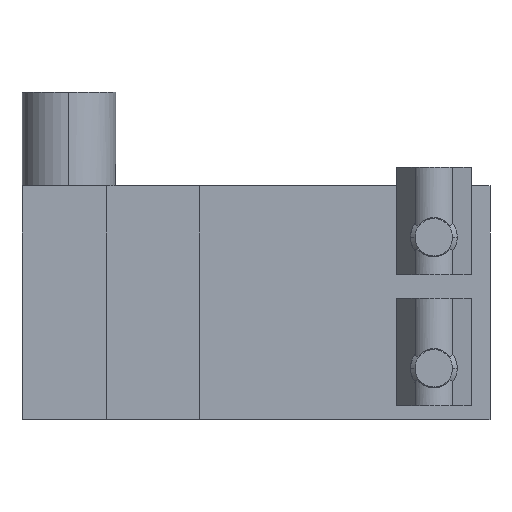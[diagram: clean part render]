
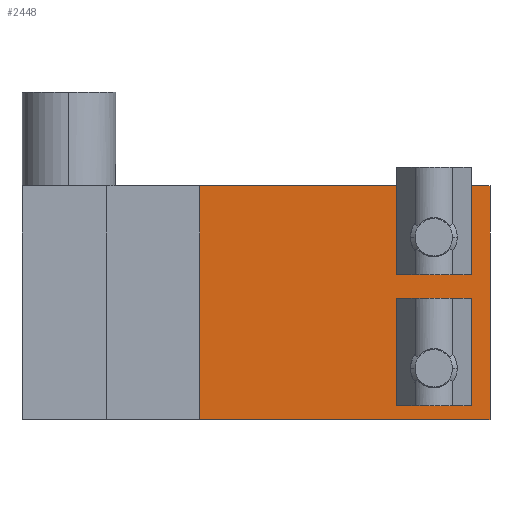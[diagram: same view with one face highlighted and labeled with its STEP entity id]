
A CAD part, front view. The second image highlights one B-rep face of the part: STEP entity #2448.
In plain terms, the highlighted planar face has unit normal (0, -1, 0).
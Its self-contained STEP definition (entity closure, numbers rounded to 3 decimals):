
#277=DIRECTION('',(1.,0.,0.));
#278=VECTOR('',#277,31.);
#279=CARTESIAN_POINT('',(-25.,0.,-12.5));
#280=LINE('',#279,#278);
#321=DIRECTION('',(0.,0.,-1.));
#322=VECTOR('',#321,25.);
#323=CARTESIAN_POINT('',(-25.,0.,12.5));
#324=LINE('',#323,#322);
#328=DIRECTION('',(1.,0.,0.));
#329=VECTOR('',#328,31.);
#330=CARTESIAN_POINT('',(-25.,0.,12.5));
#331=LINE('',#330,#329);
#335=CARTESIAN_POINT('',(0.,0.,-7.));
#336=DIRECTION('',(0.,1.,0.));
#337=DIRECTION('',(1.,0.,0.));
#338=AXIS2_PLACEMENT_3D('',#335,#336,#337);
#343=CARTESIAN_POINT('',(0.,0.,-7.));
#344=DIRECTION('',(0.,1.,0.));
#345=DIRECTION('',(-1.,0.,0.));
#346=AXIS2_PLACEMENT_3D('',#343,#344,#345);
#351=CARTESIAN_POINT('',(0.,0.,7.));
#352=DIRECTION('',(0.,1.,0.));
#353=DIRECTION('',(1.,0.,0.));
#354=AXIS2_PLACEMENT_3D('',#351,#352,#353);
#359=CARTESIAN_POINT('',(0.,0.,7.));
#360=DIRECTION('',(0.,1.,0.));
#361=DIRECTION('',(-1.,0.,0.));
#362=AXIS2_PLACEMENT_3D('',#359,#360,#361);
#367=DIRECTION('',(0.,0.,-1.));
#368=VECTOR('',#367,25.);
#369=CARTESIAN_POINT('',(6.,0.,12.5));
#370=LINE('',#369,#368);
#1955=CARTESIAN_POINT('',(6.,0.,12.5));
#1956=CARTESIAN_POINT('',(6.,0.,-12.5));
#1957=VERTEX_POINT('',#1955);
#1958=VERTEX_POINT('',#1956);
#1963=CARTESIAN_POINT('',(2.75,0.,-7.));
#1964=CARTESIAN_POINT('',(-2.75,0.,-7.));
#1965=VERTEX_POINT('',#1963);
#1966=VERTEX_POINT('',#1964);
#1967=CARTESIAN_POINT('',(2.75,0.,7.));
#1968=CARTESIAN_POINT('',(-2.75,0.,7.));
#1969=VERTEX_POINT('',#1967);
#1970=VERTEX_POINT('',#1968);
#1971=CARTESIAN_POINT('',(-25.,0.,12.5));
#1972=CARTESIAN_POINT('',(-25.,0.,-12.5));
#1973=VERTEX_POINT('',#1971);
#1974=VERTEX_POINT('',#1972);
#2424=CARTESIAN_POINT('',(-44.,0.,12.5));
#2425=DIRECTION('',(0.,-1.,0.));
#2426=DIRECTION('',(0.,0.,-1.));
#2427=AXIS2_PLACEMENT_3D('',#2424,#2425,#2426);
#2428=PLANE('',#2427);
#2429=ORIENTED_EDGE('',*,*,#2415,.F.);
#2430=ORIENTED_EDGE('',*,*,#2347,.T.);
#2432=ORIENTED_EDGE('',*,*,#2431,.T.);
#2433=ORIENTED_EDGE('',*,*,#2390,.F.);
#2434=EDGE_LOOP('',(#2429,#2430,#2432,#2433));
#2435=FACE_OUTER_BOUND('',#2434,.F.);
#2437=ORIENTED_EDGE('',*,*,#2436,.F.);
#2439=ORIENTED_EDGE('',*,*,#2438,.F.);
#2440=EDGE_LOOP('',(#2437,#2439));
#2441=FACE_BOUND('',#2440,.F.);
#2443=ORIENTED_EDGE('',*,*,#2442,.F.);
#2445=ORIENTED_EDGE('',*,*,#2444,.F.);
#2446=EDGE_LOOP('',(#2443,#2445));
#2447=FACE_BOUND('',#2446,.F.);
#2448=ADVANCED_FACE('',(#2435,#2441,#2447),#2428,.T.);
#339=CIRCLE('',#338,2.75);
#347=CIRCLE('',#346,2.75);
#355=CIRCLE('',#354,2.75);
#363=CIRCLE('',#362,2.75);
#2347=EDGE_CURVE('',#1973,#1957,#331,.T.);
#2390=EDGE_CURVE('',#1974,#1958,#280,.T.);
#2415=EDGE_CURVE('',#1973,#1974,#324,.T.);
#2431=EDGE_CURVE('',#1957,#1958,#370,.T.);
#2436=EDGE_CURVE('',#1965,#1966,#339,.T.);
#2438=EDGE_CURVE('',#1966,#1965,#347,.T.);
#2442=EDGE_CURVE('',#1969,#1970,#355,.T.);
#2444=EDGE_CURVE('',#1970,#1969,#363,.T.);
